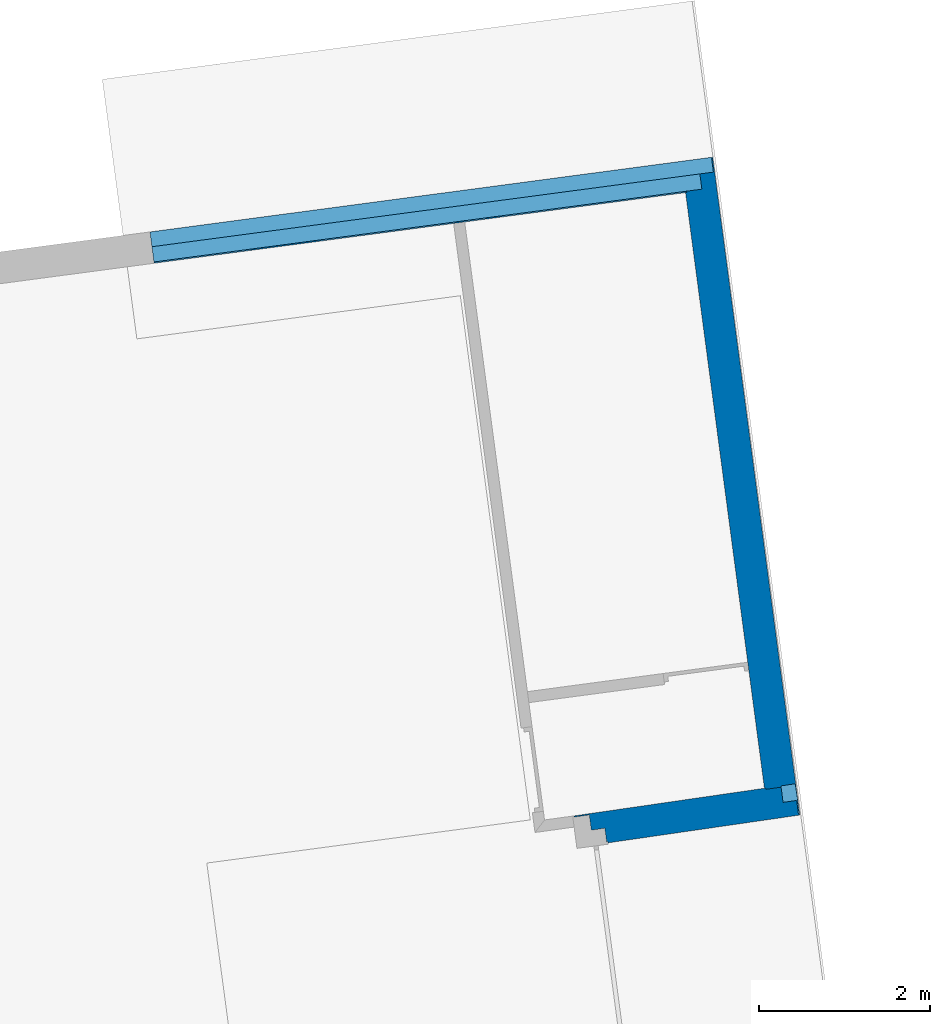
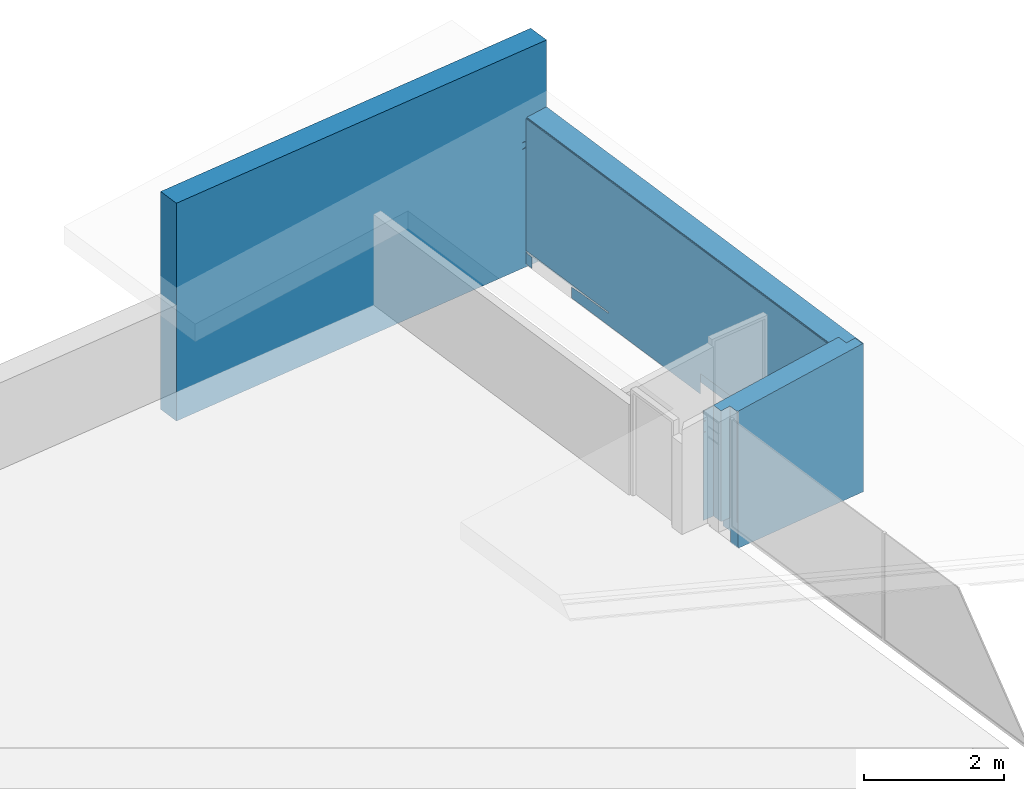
# One storey, part 7 of 7: 3 walls.
"""IFC2X3 building model written with IfcOpenShell, lengths in metres."""

from ifc_helpers import new_model, entity, si_unit, converted_unit, money_unit, direction, frame, origin_with_axes, place, context, subcontext, project, spatial, polyline, outline, extrude, boolean, faceted_brep, material, layer, layer_set, layer_usage, type_object, element, save


model = new_model("IFC2X3")

# Units and contexts
model_context = context("Model", 3, precision=1e-05, world=origin_with_axes(), true_north=direction((0.0, 1.0)))
body_context = subcontext(model_context, "Body", "Model", "MODEL_VIEW")
ifc_project = project(units=[si_unit("LENGTHUNIT", "METRE"), si_unit("AREAUNIT", "SQUARE_METRE"), si_unit("VOLUMEUNIT", "CUBIC_METRE"), converted_unit("PLANEANGLEUNIT", "DEGREE", entity("IfcPlaneAngleMeasure", 0.0174532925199), si_unit("PLANEANGLEUNIT", "RADIAN"), dimensions=[0, 0, 0, 0, 0, 0, 0]), si_unit("SOLIDANGLEUNIT", "STERADIAN"), money_unit("EUR"), converted_unit("TIMEUNIT", "Year", entity("IfcTimeMeasure", 31556926.0), si_unit("TIMEUNIT", "SECOND"), dimensions=[0, 0, 0, 0, 0, 0, 0]), si_unit("MASSUNIT", "GRAM"), si_unit("THERMODYNAMICTEMPERATUREUNIT", "DEGREE_CELSIUS"), si_unit("LUMINOUSINTENSITYUNIT", "LUMEN")], contexts=[model_context])

# Site, building, storey
site_placement = place(None, origin_with_axes())
site = spatial("IfcSite", under=ifc_project, at=site_placement, Name="Undefined", CompositionType="ELEMENT")
building_placement = place(site_placement, origin_with_axes())
building = spatial("IfcBuilding", under=site, at=building_placement, Name="Undefined", CompositionType="ELEMENT")
storey_placement = place(building_placement, frame((0.0, 0.0, 17.4), z_axis=(0.0, 0.0, 1.0), x_axis=(1.0, 0.0, 0.0)))
storey = spatial("IfcBuildingStorey", under=building, at=storey_placement, Name="Toiture", CompositionType="ELEMENT", Elevation=17.4)

# Walls
ifc_material_1 = material(Name="Finition ext - Cr\x8epis")
ifc_layer_1 = layer(ifc_material_1, 0.015, ventilated="UNKNOWN")
ifc_material_2 = material(Name="Isolation - Fibres de bois")
ifc_layer_2 = layer(ifc_material_2, 0.16, ventilated="UNKNOWN")
ifc_material_3 = material(Name="Struct. - B.A. banch\x8e")
ifc_layer_3 = layer(ifc_material_3, 0.18, ventilated="UNKNOWN")
ifc_material_4 = material(Name="Finition int - Enduit pl\x89tre")
ifc_layer_4 = layer(ifc_material_4, 0.015, ventilated="UNKNOWN")
ifc_layer_set = layer_set([ifc_layer_1, ifc_layer_2, ifc_layer_3, ifc_layer_4], Name="1.2-Mur ext: rev\x8et ext + isol ext + ma\x8donnerie + enduit")
ifc_layer_usage_1 = layer_usage(ifc_layer_set, "AXIS2", "POSITIVE", 0.0)
wall_type = type_object("IfcWallType", Name="1.2-Mur ext: rev\x8et ext + isol ext + ma\x8donnerie + enduit 370", PredefinedType="NOTDEFINED")
wall_1_placement = place(storey_placement, frame((67.3302558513, 27.9013044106, -0.485), z_axis=(0.0, 0.0, 1.0), x_axis=(-0.991285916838, -0.131727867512, 0.0)))
element("IfcWallStandardCase", 1, at=wall_1_placement, inside=storey, type_object=wall_type, material=ifc_layer_usage_1, Name="WallEx02", ObjectType="WALL", context=body_context, shape_type="CSG", body=[
    boolean("DIFFERENCE", boolean("DIFFERENCE", extrude(outline(polyline([(0.0, 0.0), (6.64919662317, 0.0), (6.64919662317, 0.37), (0.0, 0.37), (0.0, 0.0)])), origin_with_axes(), (0.0, 0.0, 1.0), 3.787), faceted_brep([(6.64919662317, 0.354999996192, 0.41), (6.64919662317, 0.37, 0.41), (5.50085724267, 0.37, 0.41), (5.50086524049, 0.355, 0.41), (6.64919662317, 0.355, 0.045), (6.64919662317, 0.354999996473, 0.035), (6.64919662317, 0.37, 0.035), (6.64919662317, 0.355, 0.245), (6.64919662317, 0.175, 0.245), (6.64919662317, 0.175, 0.045), (5.50085724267, 0.37, 0.035), (3.09517189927, 0.37, 0.035), (3.09517189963, 0.37, 0.0), (2.99517187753, 0.37, 0.0), (2.9951718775, 0.37, 0.035), (0.370166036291, 0.370000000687, 0.035), (0.3551660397, 0.37, 0.035), (0.3551660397, 0.37, 0.0), (0.000165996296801, 0.37, 0.0), (0.000165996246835, 0.37, 0.0449999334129), (0.175166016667, 0.37, 0.045), (0.175166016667, 0.37, 0.0512380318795), (0.000165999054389, 0.37, 0.0512380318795), (0.0, 0.37, 0.0512380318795), (0.0, 0.37, 3.787), (6.64919662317, 0.37, 3.787), (6.64919662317, 0.37, 2.03010193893), (5.50085724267, 0.37, 2.13056860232), (4.69010754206, 0.37, 2.2015), (3.09517187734, 0.37, 2.2015), (3.09517187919, 0.37, 2.01849999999), (5.50085724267, 0.37, 2.0185), (6.64919662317, 0.37, 2.0185), (6.64919662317, 0.37, 2.01), (5.50085724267, 0.37, 2.01), (3.09517187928, 0.37, 2.01), (3.09517189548, 0.37, 0.41), (2.99517187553, 0.37, 2.20999999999), (2.99517187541, 0.37, 2.34978763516), (0.355166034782, 0.37, 2.58075818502), (0.355166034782, 0.37, 0.41), (2.56282693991, 0.37, 0.41), (2.56282693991, 0.37, 2.20999999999), (2.72423344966, 0.37, 2.0185), (2.99517187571, 0.37, 2.01849999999), (2.99517187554, 0.37, 2.2015), (2.72423344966, 0.37, 2.2015), (2.72423344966, 0.37, 0.41), (2.99517187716, 0.37, 0.41), (2.99517187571, 0.37, 2.01), (2.72423344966, 0.37, 2.01), (4.59295208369, 0.37, 2.21), (3.09517187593, 0.37, 2.34103877), (3.09517187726, 0.37, 2.20999999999), (5.50086524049, 0.355, 2.01), (6.64919662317, 0.354999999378, 2.01), (6.64919662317, 0.354999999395, 2.0185), (5.50086524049, 0.355, 2.0185), (5.50086524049, 0.355, 2.13056860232), (6.64919662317, 0.354999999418, 2.03010263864), (6.64919662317, 0.355, 2.04515993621), (0.175159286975, 0.355, 2.61156472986), (0.175159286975, 0.355, 0.245), (2.99518184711, 0.355, 2.34978746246), (2.99518184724, 0.355, 2.20999999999), (2.56083365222, 0.355, 2.20999999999), (2.56083365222, 0.355, 0.41), (0.355159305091, 0.355, 0.41), (0.355159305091, 0.355, 2.58075947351), (2.99518184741, 0.355, 2.01849999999), (2.72224016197, 0.355, 2.0185), (2.72224016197, 0.355, 2.2015), (2.99518184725, 0.355, 2.2015), (2.99518184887, 0.355, 0.41), (2.72224016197, 0.355, 0.41), (2.72224016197, 0.355, 2.01), (2.99518184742, 0.355, 2.01), (4.59296008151, 0.355, 2.21), (3.09518184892, 0.355, 2.20999999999), (3.0951818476, 0.355, 2.34103859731), (5.42586522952, 0.355, 2.13713025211), (5.42586522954, 0.355, 2.0185), (3.09518185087, 0.355, 2.01849999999), (3.09518184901, 0.355, 2.2015), (4.69011553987, 0.355, 2.2015), (5.42586522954, 0.355, 2.01), (5.42586522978, 0.355, 0.41), (3.09518186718, 0.355, 0.41), (3.09518185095, 0.355, 2.01), (0.175159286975, 0.355000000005, 0.045), (0.17515929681, 0.355, 0.0), (0.355159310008, 0.355, 0.0), (0.355159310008, 0.355, 0.035), (2.99518184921, 0.355, 0.035), (2.99518184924, 0.355, 0.0), (3.09518187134, 0.355, 0.0), (3.09518187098, 0.355, 0.035), (5.42586522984, 0.355, 0.035), (5.42586522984, 0.355, 0.0), (5.50086524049, 0.355, 0.0), (5.50086524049, 0.355, 0.035), (0.175078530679, 0.175, 0.245), (0.175078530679, 0.175, 2.61158019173), (0.0150785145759, 0.175, 2.62557837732), (0.0150785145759, 0.175, 0.0512380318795), (0.175078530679, 0.175, 0.0512380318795), (0.175078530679, 0.175, 0.045), (5.42585725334, 0.369960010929, 0.035), (0.175078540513, 0.175, 0.0), (0.0150785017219, 0.175, 0.0), (0.0151592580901, 0.355000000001, 0.0), (0.000159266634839, 0.355, 0.0), (0.000159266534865, 0.355, 0.044999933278), (0.0151592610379, 0.355, 0.044999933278), (0.175159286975, 0.355, 0.0512380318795), (0.000159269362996, 0.355, 0.0512380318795), (7.85130662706e-05, 0.175, 0.0512380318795), (6.72969004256e-06, 0.0149999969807, 0.0512380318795), (0.0, 0.175, 0.0512380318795), (0.0, 0.355, 0.0512380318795), (0.0, 0.015, 2.62690503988), (0.0, 0.0, 2.6269057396), (0.0, 0.0, 3.787), (6.64919662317, 0.0, 3.787), (6.64919662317, 0.0, 2.0451764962), (6.64919662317, 0.015, 2.04517579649), (6.64919662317, 0.175, 2.04516833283), (5.42585725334, 0.369960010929, 2.13713025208), (5.42585725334, 0.369960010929, 2.0185), (5.42585725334, 0.369960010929, 2.01), (5.42585725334, 0.369960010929, 0.41), (5.42585725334, 0.369960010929, 0.0), (5.50085724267, 0.37, 0.0), (0.0150067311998, 0.0149999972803, 2.62559212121), (0.015006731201, 0.015, 0.0512380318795), (0.0150785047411, 0.175, 0.0449998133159)], [[[0, 1, 2, 3]], [[4, 5, 6, 1, 0, 7, 8, 9]], [[1, 6, 10, 11, 12, 13, 14, 15, 16, 17, 18, 19, 20, 21, 22, 23, 24, 25, 26, 27, 28, 29, 30, 31, 32, 33, 34, 35, 36, 2], [37, 38, 39, 40, 41, 42], [43, 44, 45, 46], [47, 48, 49, 50], [51, 52, 53]], [[34, 54, 3, 2]], [[7, 0, 3, 54, 55, 56, 57, 58, 59, 60, 61, 62], [63, 64, 65, 66, 67, 68], [69, 70, 71, 72], [73, 74, 75, 76], [77, 78, 79], [80, 81, 82, 83, 84], [85, 86, 87, 88]], [[5, 4, 89, 90, 91, 92, 93, 94, 95, 96, 97, 98, 99, 100]], [[6, 5, 100, 10]], [[8, 7, 62, 101]], [[9, 8, 101, 102, 103, 104, 105, 106]], [[4, 9, 106, 89]], [[10, 107, 97, 96, 11]], [[95, 12, 11, 96]], [[13, 12, 95, 94]], [[94, 93, 14, 13]], [[14, 93, 92, 16, 15]], [[17, 16, 92, 91]], [[17, 91, 90, 108, 109, 110, 111, 18]], [[19, 18, 111, 112]], [[89, 20, 19, 112, 113]], [[20, 89, 114, 21]], [[21, 114, 115, 22]], [[22, 115, 116, 117, 118, 119, 23]], [[24, 23, 119, 118, 117, 120, 121, 122]], [[123, 25, 24, 122]], [[59, 26, 25, 123, 124, 125, 126, 60]], [[26, 59, 58, 27]], [[127, 80, 84, 28, 27]], [[28, 84, 83, 29]], [[83, 82, 30, 29]], [[128, 31, 30, 82, 81]], [[56, 32, 31, 57]], [[32, 56, 55, 33]], [[33, 55, 54, 34]], [[129, 85, 88, 35, 34]], [[88, 87, 36, 35]], [[130, 2, 36, 87, 86]], [[64, 63, 38, 37]], [[63, 68, 39, 38]], [[68, 67, 40, 39]], [[66, 41, 40, 67]], [[41, 66, 65, 42]], [[64, 37, 42, 65]], [[70, 69, 44, 43]], [[69, 72, 45, 44]], [[72, 71, 46, 45]], [[70, 43, 46, 71]], [[74, 73, 48, 47]], [[73, 76, 49, 48]], [[49, 76, 75, 50]], [[74, 47, 50, 75]], [[51, 77, 79, 52]], [[78, 53, 52, 79]], [[77, 51, 53, 78]], [[34, 2, 130, 129]], [[58, 57, 31, 27]], [[60, 126, 102, 61]], [[62, 61, 102, 101]], [[127, 128, 81, 80]], [[129, 130, 86, 85]], [[90, 89, 106, 108]], [[107, 131, 98, 97]], [[132, 99, 98, 131]], [[99, 132, 10, 100]], [[126, 125, 133, 103, 102]], [[104, 103, 133, 134]], [[114, 105, 104, 116, 115]], [[114, 89, 106, 105]], [[107, 10, 132, 131]], [[109, 108, 106, 135]], [[110, 109, 135, 113]], [[111, 110, 113, 112]], [[89, 113, 135, 106]], [[116, 104, 134, 117]], [[117, 134, 133, 120]], [[125, 124, 121, 120, 133]], [[124, 123, 122, 121]], [[31, 128, 127, 27]]])), faceted_brep([(0.436932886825, 0.37, 2.07), (0.436932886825, 0.37, 2.078), (0.436940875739, 0.355, 2.078), (0.436940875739, 0.355, 2.07), (0.376932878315, 0.37, 2.07), (0.376932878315, 0.37, 2.19), (0.436932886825, 0.37, 2.19), (0.436932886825, 0.37, 2.182), (0.393932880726, 0.37, 2.182), (0.385447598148, 0.37, 2.17848528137), (0.381932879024, 0.37, 2.17), (0.381932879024, 0.37, 2.09), (0.385447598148, 0.37, 2.08151471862), (0.393932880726, 0.37, 2.078), (0.39394086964, 0.355, 2.078), (0.385455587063, 0.355, 2.08151471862), (0.381940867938, 0.355, 2.09), (0.381940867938, 0.355, 2.17), (0.385455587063, 0.355, 2.17848528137), (0.39394086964, 0.355, 2.182), (0.436940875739, 0.355, 2.182), (0.436940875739, 0.355, 2.19), (0.376940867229, 0.355, 2.19), (0.376940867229, 0.355, 2.07)], [[[0, 1, 2, 3]], [[1, 0, 4, 5, 6, 7, 8, 9, 10, 11, 12, 13]], [[2, 1, 13, 14]], [[3, 2, 14, 15, 16, 17, 18, 19, 20, 21, 22, 23]], [[4, 0, 3, 23]], [[5, 4, 23, 22]], [[21, 6, 5, 22]], [[7, 6, 21, 20]], [[8, 7, 20, 19]], [[8, 19, 18, 9]], [[10, 9, 18, 17]], [[11, 10, 17, 16]], [[12, 11, 16, 15]], [[14, 13, 12, 15]]])),
])
ifc_layer_usage_2 = layer_usage(ifc_layer_set, "AXIS2", "POSITIVE", 0.0)
wall_2_placement = place(storey_placement, frame((68.3507482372, 20.1953635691, -0.43376196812), z_axis=(0.0, 0.0, 1.0), x_axis=(-0.131283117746, 0.99134491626, 0.0)))
element("IfcWallStandardCase", 2, at=wall_2_placement, inside=storey, type_object=wall_type, material=ifc_layer_usage_2, Name="SW - 014", ObjectType="WALL", context=body_context, shape_type="CSG", body=[
    boolean("DIFFERENCE", extrude(outline(polyline([(-0.00455362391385, 0.0), (7.77321870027, 0.0), (7.77321870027, 0.37), (-0.00455362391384, 0.37), (-0.00455362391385, 0.0)])), origin_with_axes(), (0.0, 0.0, 1.0), 4.38376196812), faceted_brep([(7.40305266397, 0.37, 0.35876196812), (7.40305266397, 0.37, 2.52820782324), (0.365474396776, 0.369999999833, 2.52760330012), (0.365474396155, 0.369999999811, 0.35876196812), (1.73994331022, 0.369999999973, 0.35876196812), (1.73994331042, 0.37, 0.43376196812), (1.88994340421, 0.37, 0.43376196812), (1.88994340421, 0.369999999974, 0.35876196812), (3.32677182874, 0.369999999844, 0.35876196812), (3.32677182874, 0.369999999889, 1.44636658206e-09), (-0.00455362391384, 0.37, 0.0), (-0.00455362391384, 0.37, 4.38376196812), (7.77321870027, 0.37, 4.38376196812), (7.77321870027, 0.37, 0.0), (7.40305266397, 0.37, 0.0), (7.40077034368, 0.369999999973, 0.221061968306), (7.39177033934, 0.369999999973, 0.218650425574), (7.3851818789, 0.369999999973, 0.212061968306), (7.38428015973, 0.369999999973, 0.20869670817), (7.38428015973, 0.369999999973, 0.197250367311), (7.27804138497, 0.369999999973, 0.192561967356), (7.27804138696, 0.369999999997, 0.0), (6.33933679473, 0.369999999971, 3.77433195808e-10), (6.3393367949, 0.369999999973, 0.192561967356), (6.06741773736, 0.369999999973, 0.204561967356), (5.47020299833, 0.369999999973, 0.211623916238), (5.47020299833, 0.369999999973, 0.233761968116), (7.40305266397, 0.37, 0.233761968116), (7.40305939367, 0.355, 0.35876196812), (7.40305939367, 0.355, 2.52952015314), (0.365659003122, 0.355, 2.5289156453), (0.365659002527, 0.355, 0.35876196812), (1.73996008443, 0.355, 0.35876196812), (1.73996008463, 0.355, 0.43376196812), (1.88996017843, 0.355, 0.43376196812), (1.88996017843, 0.355, 0.35876196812), (3.32676215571, 0.365133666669, 0.35876196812), (3.32676215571, 0.365133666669, 1.95619165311e-09), (0.0148165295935, 0.0149999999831, 0.0), (0.0150011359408, 2.24163443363e-09, 0.0), (-0.00455362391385, 0.0, 0.0), (6.21989542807, 0.368587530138, 5.67791147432e-10), (7.26400425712, 0.369834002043, 0.0), (7.77321870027, 0.0, 0.0), (7.75821870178, -6.72969071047e-06, 0.0), (7.75821196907, 0.015, 0.0), (7.59821195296, 0.0149999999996, 0.0), (7.59814016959, 0.175, 0.0), (0.172859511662, 0.174999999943, 0.0), (0.174828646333, 0.0149999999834, 0.0), (-0.00455362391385, 0.0, 4.38376196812), (7.77321870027, 0.0, 4.38376196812), (7.26400425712, 0.369834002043, 0.192561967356), (7.38429848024, 0.36997761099, 0.19733472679), (7.38429848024, 0.36997761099, 0.208764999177), (7.38518189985, 0.369978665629, 0.212061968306), (7.39177035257, 0.369986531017, 0.218650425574), (6.21989542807, 0.368587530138, 0.192561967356), (5.91744341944, 0.368226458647, 0.204561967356), (5.47023028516, 0.367692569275, 0.209316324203), (5.47023028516, 0.367692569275, 0.233761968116), (7.41805939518, 0.355, 2.5445787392), (0.350657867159, 0.354999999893, 2.54397165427), (0.350657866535, 0.354999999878, 0.19376196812), (7.41805939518, 0.355, 0.19376196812), (0.0150011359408, 2.24163443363e-09, 2.57500128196), (0.0148165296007, 0.0149999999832, 2.57368893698), (7.75821870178, -6.72969071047e-06, 2.575667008), (7.75821196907, 0.015, 2.57435408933), (7.59821195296, 0.0149999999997, 2.57434034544), (7.59814016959, 0.175, 2.56034215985), (7.41814015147, 0.174999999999, 2.56032669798), (7.41814015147, 0.175, 0.19376196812), (0.352873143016, 0.175, 0.19376196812), (0.352873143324, 0.174999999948, 2.5597197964), (0.172859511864, 0.174999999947, 2.55970433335), (0.17482864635, 0.0149999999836, 2.57370268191)], [[[0, 1, 2, 3, 4, 5, 6, 7, 8, 9, 10, 11, 12, 13, 14, 15, 16, 17, 18, 19, 20, 21, 22, 23, 24, 25, 26, 27]], [[1, 0, 28, 29]], [[2, 1, 29, 30]], [[3, 2, 30, 31]], [[4, 3, 31, 32]], [[5, 4, 32, 33]], [[6, 5, 33, 34]], [[7, 6, 34, 35]], [[8, 7, 35, 28, 0, 36]], [[37, 9, 8, 36]], [[38, 39, 40, 10, 9, 37, 41, 22, 21, 42, 14, 13, 43, 44, 45, 46, 47, 48, 49]], [[10, 40, 50, 11]], [[50, 51, 12, 11]], [[43, 13, 12, 51]], [[14, 42, 52, 53, 54, 55, 56, 15]], [[16, 15, 56]], [[17, 16, 56, 55]], [[18, 17, 55, 54]], [[19, 18, 54, 53]], [[20, 19, 53, 52]], [[42, 21, 20, 52]], [[22, 41, 57, 23]], [[24, 23, 57, 58]], [[25, 24, 58, 59]], [[26, 25, 59, 60]], [[27, 26, 60]], [[41, 37, 36, 0, 27, 60, 59, 58, 57]], [[61, 62, 63, 64], [30, 29, 28, 35, 34, 33, 32, 31]], [[65, 39, 38, 66]], [[67, 44, 43, 51, 50, 40, 39, 65]], [[44, 67, 68, 45]], [[46, 45, 68, 69]], [[47, 46, 69, 70]], [[48, 47, 70, 71, 72, 73, 74, 75]], [[49, 48, 75, 76]], [[38, 49, 76, 66]], [[71, 74, 62, 61]], [[74, 73, 63, 62]], [[73, 72, 64, 63]], [[72, 71, 61, 64]], [[67, 65, 66, 76, 69, 68]], [[69, 76, 75, 74, 71, 70]]])),
])
ifc_layer_usage_3 = layer_usage(ifc_layer_set, "AXIS2", "POSITIVE", 0.0)
wall_3_placement = place(storey_placement, frame((66.1045906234, 19.8697320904, -0.44), z_axis=(0.0, 0.0, 1.0), x_axis=(0.989654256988, 0.143472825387, 0.0)))
element("IfcWallStandardCase", 3, at=wall_3_placement, inside=storey, type_object=wall_type, material=ifc_layer_usage_3, Name="SW - 013", ObjectType="WALL", context=body_context, shape_type="CSG", body=[
    boolean("DIFFERENCE", boolean("DIFFERENCE", extrude(outline(polyline([(-0.370023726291, 0.0), (2.27419233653, 0.0), (2.27419233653, 0.37), (-0.370023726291, 0.37), (-0.370023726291, 0.0)])), origin_with_axes(), (0.0, 0.0, 1.0), 3.905), faceted_brep([(1.3889533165, 0.37, 2.137), (1.3889533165, 0.37, 2.145), (1.44912740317, 0.37, 2.145), (1.44912740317, 0.37, 2.025), (1.3889533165, 0.37, 2.025), (1.3889533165, 0.37, 2.033), (1.43207807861, 0.37, 2.033), (1.44058797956, 0.37, 2.03651471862), (1.44411289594, 0.37, 2.045), (1.44411289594, 0.37, 2.125), (1.44058797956, 0.37, 2.13348528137), (1.43207807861, 0.37, 2.137), (1.38780983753, 0.355, 2.137), (1.38780983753, 0.355, 2.145), (1.4479839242, 0.355, 2.145), (1.4479839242, 0.355, 2.025), (1.38780983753, 0.355, 2.025), (1.38780983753, 0.355, 2.033), (1.43093459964, 0.355, 2.033), (1.43944450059, 0.355, 2.03651471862), (1.44296941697, 0.355, 2.045), (1.44296941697, 0.355, 2.125), (1.43944450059, 0.355, 2.13348528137), (1.43093459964, 0.355, 2.137)], [[[0, 1, 2, 3, 4, 5, 6, 7, 8, 9, 10, 11]], [[1, 0, 12, 13]], [[2, 1, 13, 14]], [[3, 2, 14, 15]], [[4, 3, 15, 16]], [[5, 4, 16, 17]], [[6, 5, 17, 18]], [[7, 6, 18, 19]], [[8, 7, 19, 20]], [[9, 8, 20, 21]], [[10, 9, 21, 22]], [[11, 10, 22, 23]], [[0, 11, 23, 12]], [[16, 15, 14, 13, 12, 23, 22, 21, 20, 19, 18, 17]]])), faceted_brep([(2.09917908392, 0.370000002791, 0.00623803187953), (2.09917908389, 0.37, 0.0), (-0.370023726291, 0.37, 0.0), (-0.370023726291, 0.37, 3.905), (2.27419233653, 0.37, 3.905), (2.27419233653, 0.37, 0.0), (2.26963871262, 0.37, 0.0), (2.26963871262, 0.37, 0.00623803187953), (0.0, 0.37, 0.365), (1.91916545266, 0.370000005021, 0.365), (1.91916545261, 0.370000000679, 2.53515367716), (-0.350832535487, 0.37, 2.33656732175), (-0.350832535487, 0.37, 2.165), (-0.315834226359, 0.37, 2.165), (-0.315834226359, 0.37, 2.1565), (-0.350832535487, 0.37, 2.15649999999), (-0.350832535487, 0.37, 1.97350000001), (-0.315834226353, 0.37, 1.9735), (-0.315834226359, 0.37, 1.965), (-0.350832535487, 0.37, 1.965), (-0.350832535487, 0.37, 0.44), (0.0, 0.37, 0.44), (2.09899447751, 0.355, 0.0), (2.09899447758, 0.355000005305, 0.00623803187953), (0.0, 0.176408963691, 0.0), (0.0, 0.0, 0.0), (-0.370023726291, 0.0, 0.0), (2.09677920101, 0.175, 0.0), (-0.370023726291, 0.0, 3.905), (2.27419233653, 0.0, 3.905), (2.27419233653, 0.0, 0.0), (2.26963871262, 0.0, 0.0), (2.26963871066, 0.0, 0.00623803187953), (2.26963871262, 0.015, 0.00623803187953), (2.26963871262, 0.175, 0.00623803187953), (2.26963871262, 0.355, 0.00623803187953), (0.0, 0.355, 0.365), (1.91898084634, 0.355000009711, 0.365), (1.91898084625, 0.355000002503, 2.53515238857), (-0.170990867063, 0.355000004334, 2.35231528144), (-0.351002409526, 0.355000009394, 2.33656732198), (-0.351002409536, 0.355000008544, 2.165), (-0.315911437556, 0.355, 2.165), (-0.315835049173, 0.369927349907, 2.165), (-0.315835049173, 0.369927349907, 2.1565), (-0.315836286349, 0.369818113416, 2.1565), (-0.315912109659, 0.355, 2.1565), (-0.351002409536, 0.355000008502, 2.15649999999), (-0.351002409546, 0.355000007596, 1.97350000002), (-0.315912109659, 0.355, 1.9735), (-0.315836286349, 0.369818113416, 1.9735), (-0.315835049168, 0.369927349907, 1.9735), (-0.315835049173, 0.369927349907, 1.965), (-0.315911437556, 0.355, 1.965), (-0.351002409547, 0.355000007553, 1.965), (-0.351002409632, 0.355, 0.44), (-0.170990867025, 0.355000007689, 0.44), (-0.173029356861, 0.175, 0.44), (-0.0130190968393, 0.175000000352, 0.44), (-0.014831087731, 0.015, 0.44), (0.0, 0.015, 0.44), (0.0, 0.0, 0.44), (0.0, 0.176408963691, 0.2), (0.0, 0.355, 0.2), (2.09677920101, 0.175, 0.00623803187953), (-1.46158640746e-10, -1.2903957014e-08, 2.38268310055), (2.26963871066, 0.0, 2.58123802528), (2.09677920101, 0.175, 0.2), (2.26982331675, 0.0150000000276, 0.00623803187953), (2.25482218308, 0.0150000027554, 0.00623803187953), (2.25679131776, 0.175000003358, 0.00623803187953), (2.09899447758, 0.355000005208, 0.2), (2.09899447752, 0.355000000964, 2.56595782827), (-0.17099086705, 0.355000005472, 2.36737257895), (-0.173029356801, 0.175000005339, 2.36737258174), (-0.0130190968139, 0.175000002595, 2.38137076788), (-0.0148310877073, 0.0150000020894, 2.38137077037), (0.000169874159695, 0.0150000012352, 2.38268310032), (0.0001698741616, 0.0150000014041, 0.44), (2.25482218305, 0.0150000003, 2.57992696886), (2.26982331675, 0.0150000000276, 2.58123931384), (2.25679131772, 0.175000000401, 2.57994071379), (2.09677920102, 0.17500000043, 2.56594236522)], [[[0, 1, 2, 3, 4, 5, 6, 7], [8, 9, 10, 11, 12, 13, 14, 15, 16, 17, 18, 19, 20, 21]], [[22, 1, 0, 23]], [[24, 25, 26, 2, 1, 22, 27]], [[2, 26, 28, 3]], [[28, 29, 4, 3]], [[30, 5, 4, 29]], [[31, 6, 5, 30]], [[31, 32, 33, 34, 35, 7, 6]], [[0, 7, 35, 23]], [[9, 8, 36, 37]], [[10, 9, 37, 38]], [[11, 10, 38, 39, 40]], [[12, 11, 40, 41]], [[13, 12, 41, 42, 43]], [[14, 13, 43, 44]], [[15, 14, 44, 45, 46, 47]], [[16, 15, 47, 48]], [[17, 16, 48, 49, 50, 51]], [[18, 17, 51, 52]], [[19, 18, 52, 53, 54]], [[20, 19, 54, 55]], [[21, 20, 55, 56, 57, 58, 59, 60]], [[61, 25, 24, 62, 63, 36, 8, 21, 60]], [[27, 22, 23, 64]], [[61, 65, 66, 32, 31, 30, 29, 28, 26, 25]], [[24, 27, 64, 67, 62]], [[68, 33, 32]], [[33, 69, 70, 34]], [[64, 23, 35, 34, 70]], [[36, 63, 71, 72, 73, 39, 38, 37]], [[55, 54, 53, 49, 48, 47, 46, 42, 41, 40, 39, 56]], [[42, 46, 45, 43]], [[44, 43, 45]], [[49, 53, 52, 50]], [[51, 50, 52]], [[74, 57, 56, 39, 73]], [[57, 74, 75, 58]], [[76, 59, 58, 75]], [[60, 59, 76, 77, 78]], [[63, 62, 67, 71]], [[60, 78, 61]], [[65, 61, 78, 77]], [[66, 65, 77, 79, 80]], [[32, 66, 80, 68]], [[64, 70, 81, 82, 67]], [[33, 68, 80, 79, 69]], [[69, 79, 81, 70]], [[71, 67, 82, 72]], [[74, 73, 72, 82, 75]], [[77, 76, 75, 82, 81, 79]]])),
])

save(model, "model.ifc")
